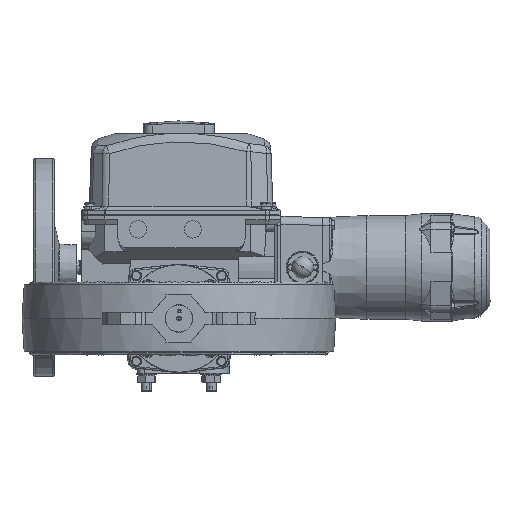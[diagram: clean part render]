
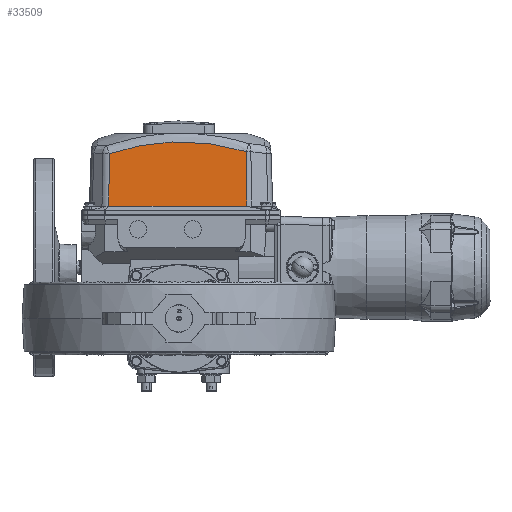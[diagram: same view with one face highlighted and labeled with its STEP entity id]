
A CAD part, front view. The second image highlights one B-rep face of the part: STEP entity #33509.
In plain terms, the highlighted planar face has unit normal (0, -0.999, 0.035).
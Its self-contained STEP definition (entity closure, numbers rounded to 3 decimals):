
#5505 = CARTESIAN_POINT ( 'NONE',  ( 52.03, 347.065, 199.664 ) ) ;
#6487 = EDGE_CURVE ( 'NONE', #32891, #11145, #58039, .T. ) ;
#11145 = VERTEX_POINT ( 'NONE', #30007 ) ;
#13608 = CARTESIAN_POINT ( 'NONE',  ( -27.821, 347.168, 202.616 ) ) ;
#16666 = EDGE_LOOP ( 'NONE', ( #21629, #77240, #41711, #20212 ) ) ;
#17615 = AXIS2_PLACEMENT_3D ( 'NONE', #26102, #99169, #50610 ) ;
#20212 = ORIENTED_EDGE ( 'NONE', *, *, #79028, .T. ) ;
#20664 = CARTESIAN_POINT ( 'NONE',  ( 45.456, 347.107, 200.872 ) ) ;
#21359 = CARTESIAN_POINT ( 'NONE',  ( -47.674, 347.056, 199.397 ) ) ;
#21629 = ORIENTED_EDGE ( 'NONE', *, *, #40109, .T. ) ;
#21757 = CARTESIAN_POINT ( 'NONE',  ( -80.885, 344.635, 130.07 ) ) ;
#26102 = CARTESIAN_POINT ( 'NONE',  ( -112.645, 344.254, 119.175 ) ) ;
#26628 = B_SPLINE_CURVE_WITH_KNOTS ( 'NONE', 3,
 ( #91597, #84144, #44804, #52945, #69274, #69969, #94762, #5505, #20664, #101852, #77396, #85920, #45513, #85584, #29843, #46213, #36947, #102194, #62133, #13608, #86621, #21359, #38022, #54341, #78090, #29493 ),
 .UNSPECIFIED., .F., .F.,
 ( 4, 2, 2, 2, 2, 2, 2, 2, 2, 2, 2, 2, 4 ),
 ( 0., 0.01, 0.015, 0.02, 0.04, 0.061, 0.081, 0.091, 0.096, 0.101, 0.121, 0.142, 0.162 ),
 .UNSPECIFIED. ) ;
#26689 = LINE ( 'NONE', #58361, #50840 ) ;
#29493 = CARTESIAN_POINT ( 'NONE',  ( -80.011, 346.744, 190.479 ) ) ;
#29843 = CARTESIAN_POINT ( 'NONE',  ( -7.681, 347.223, 204.189 ) ) ;
#29893 = DIRECTION ( 'NONE',  ( -1., 0., 0. ) ) ;
#30007 = CARTESIAN_POINT ( 'NONE',  ( -80.885, 344.635, 130.07 ) ) ;
#30554 = CARTESIAN_POINT ( 'NONE',  ( 78.701, 344.635, 130.07 ) ) ;
#32891 = VERTEX_POINT ( 'NONE', #30554 ) ;
#33509 = ADVANCED_FACE ( 'NONE', ( #98581 ), #90653, .F. ) ;
#36947 = CARTESIAN_POINT ( 'NONE',  ( -14.391, 347.21, 203.805 ) ) ;
#38022 = CARTESIAN_POINT ( 'NONE',  ( -54.218, 347.006, 197.978 ) ) ;
#40109 = EDGE_CURVE ( 'NONE', #66375, #11145, #26689, .T. ) ;
#41711 = ORIENTED_EDGE ( 'NONE', *, *, #105093, .T. ) ;
#44804 = CARTESIAN_POINT ( 'NONE',  ( 71.649, 346.899, 194.904 ) ) ;
#45513 = CARTESIAN_POINT ( 'NONE',  ( 5.698, 347.233, 204.457 ) ) ;
#46213 = CARTESIAN_POINT ( 'NONE',  ( -12.713, 347.214, 203.914 ) ) ;
#48104 = CARTESIAN_POINT ( 'NONE',  ( 78.113, 346.831, 192.968 ) ) ;
#50610 = DIRECTION ( 'NONE',  ( 0., 0.035, 0.999 ) ) ;
#50840 = VECTOR ( 'NONE', #51316, 1000. ) ;
#51316 = DIRECTION ( 'NONE',  ( -0.014, -0.035, -0.999 ) ) ;
#52945 = CARTESIAN_POINT ( 'NONE',  ( 66.76, 346.945, 196.211 ) ) ;
#53011 = LINE ( 'NONE', #74074, #101214 ) ;
#54341 = CARTESIAN_POINT ( 'NONE',  ( -67.198, 346.889, 194.621 ) ) ;
#58039 = LINE ( 'NONE', #21757, #68305 ) ;
#58361 = CARTESIAN_POINT ( 'NONE',  ( -81.049, 344.239, 118.718 ) ) ;
#61622 = CARTESIAN_POINT ( 'NONE',  ( -80.011, 346.744, 190.479 ) ) ;
#62133 = CARTESIAN_POINT ( 'NONE',  ( -19.434, 347.196, 203.411 ) ) ;
#66375 = VERTEX_POINT ( 'NONE', #61622 ) ;
#68305 = VECTOR ( 'NONE', #29893, 1000. ) ;
#69178 = VERTEX_POINT ( 'NONE', #48104 ) ;
#69274 = CARTESIAN_POINT ( 'NONE',  ( 65.126, 346.959, 196.631 ) ) ;
#69969 = CARTESIAN_POINT ( 'NONE',  ( 61.856, 346.987, 197.436 ) ) ;
#74074 = CARTESIAN_POINT ( 'NONE',  ( 78.804, 344.254, 119.155 ) ) ;
#77240 = ORIENTED_EDGE ( 'NONE', *, *, #6487, .F. ) ;
#77396 = CARTESIAN_POINT ( 'NONE',  ( 25.644, 347.197, 203.447 ) ) ;
#78090 = CARTESIAN_POINT ( 'NONE',  ( -73.632, 346.821, 192.682 ) ) ;
#79028 = EDGE_CURVE ( 'NONE', #69178, #66375, #26628, .T. ) ;
#84144 = CARTESIAN_POINT ( 'NONE',  ( 74.89, 346.866, 193.968 ) ) ;
#85584 = CARTESIAN_POINT ( 'NONE',  ( -4.332, 347.227, 204.306 ) ) ;
#85920 = CARTESIAN_POINT ( 'NONE',  ( 12.361, 347.227, 204.294 ) ) ;
#86621 = CARTESIAN_POINT ( 'NONE',  ( -34.475, 347.137, 201.716 ) ) ;
#90653 = PLANE ( 'NONE',  #17615 ) ;
#90760 = DIRECTION ( 'NONE',  ( -0.009, 0.035, 0.999 ) ) ;
#91597 = CARTESIAN_POINT ( 'NONE',  ( 78.113, 346.831, 192.968 ) ) ;
#94762 = CARTESIAN_POINT ( 'NONE',  ( 60.219, 347.001, 197.821 ) ) ;
#98581 = FACE_OUTER_BOUND ( 'NONE', #16666, .T. ) ;
#99169 = DIRECTION ( 'NONE',  ( 0., 0.999, -0.035 ) ) ;
#101214 = VECTOR ( 'NONE', #90760, 1000. ) ;
#101852 = CARTESIAN_POINT ( 'NONE',  ( 32.263, 347.173, 202.763 ) ) ;
#102194 = CARTESIAN_POINT ( 'NONE',  ( -17.752, 347.201, 203.554 ) ) ;
#105093 = EDGE_CURVE ( 'NONE', #32891, #69178, #53011, .T. ) ;
